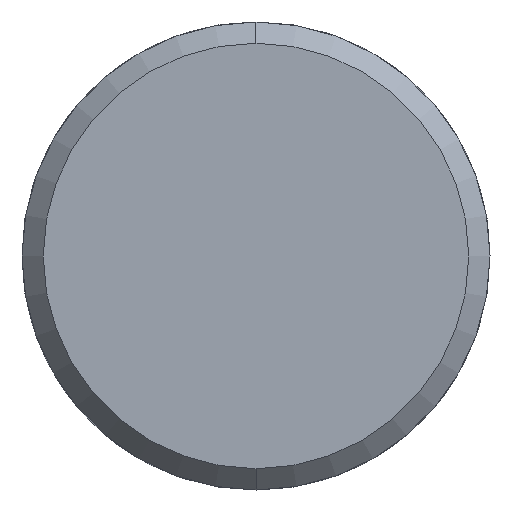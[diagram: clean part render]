
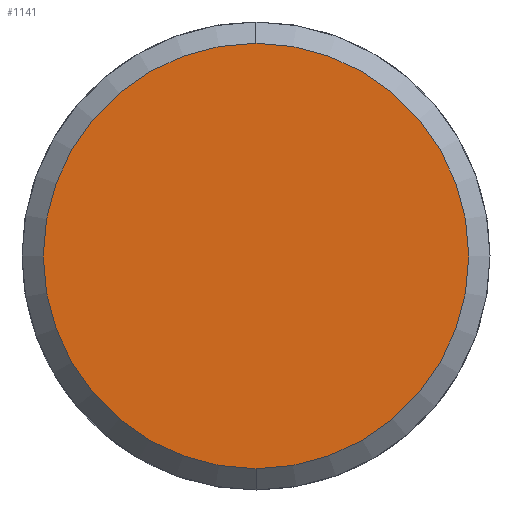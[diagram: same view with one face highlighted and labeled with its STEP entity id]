
A CAD part, left-side view. The second image highlights one B-rep face of the part: STEP entity #1141.
In plain terms, the highlighted planar face has unit normal (-1, 0, 0).
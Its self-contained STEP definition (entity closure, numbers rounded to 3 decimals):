
#1073=CARTESIAN_POINT('Vertex',(-5.,0.,-10.)) ;
#1076=CARTESIAN_POINT('Axis2P3D Location',(-5.,0.,0.)) ;
#1080=CARTESIAN_POINT('Vertex',(-5.,10.,0.)) ;
#1083=CARTESIAN_POINT('Axis2P3D Location',(-5.,0.,0.)) ;
#1087=CARTESIAN_POINT('Vertex',(-5.,0.,10.)) ;
#1109=CARTESIAN_POINT('Axis2P3D Location',(-5.,0.,0.)) ;
#1113=CARTESIAN_POINT('Vertex',(-5.,-10.,0.)) ;
#1116=CARTESIAN_POINT('Axis2P3D Location',(-5.,0.,0.)) ;
#1130=CARTESIAN_POINT('Axis2P3D Location',(-5.,0.,0.)) ;
#1077=DIRECTION('Axis2P3D Direction',(1.,0.,-0.)) ;
#1084=DIRECTION('Axis2P3D Direction',(1.,0.,-0.)) ;
#1110=DIRECTION('Axis2P3D Direction',(1.,0.,-0.)) ;
#1117=DIRECTION('Axis2P3D Direction',(1.,0.,-0.)) ;
#1131=DIRECTION('Axis2P3D Direction',(1.,0.,-0.)) ;
#1132=DIRECTION('Axis2P3D XDirection',(-0.,0.,-1.)) ;
#1078=AXIS2_PLACEMENT_3D('Circle Axis2P3D',#1076,#1077,$) ;
#1085=AXIS2_PLACEMENT_3D('Circle Axis2P3D',#1083,#1084,$) ;
#1111=AXIS2_PLACEMENT_3D('Circle Axis2P3D',#1109,#1110,$) ;
#1118=AXIS2_PLACEMENT_3D('Circle Axis2P3D',#1116,#1117,$) ;
#1133=AXIS2_PLACEMENT_3D('Plane Axis2P3D',#1130,#1131,#1132) ;
#1136=ORIENTED_EDGE('',*,*,#1082,.F.) ;
#1137=ORIENTED_EDGE('',*,*,#1120,.F.) ;
#1138=ORIENTED_EDGE('',*,*,#1115,.F.) ;
#1139=ORIENTED_EDGE('',*,*,#1089,.F.) ;
#1141=ADVANCED_FACE('351-12X22X80',(#1140),#1134,.F.) ;
#1079=CIRCLE('generated circle',#1078,10.) ;
#1086=CIRCLE('generated circle',#1085,10.) ;
#1112=CIRCLE('generated circle',#1111,10.) ;
#1119=CIRCLE('generated circle',#1118,10.) ;
#1082=EDGE_CURVE('',#1074,#1081,#1079,.T.) ;
#1089=EDGE_CURVE('',#1081,#1088,#1086,.T.) ;
#1115=EDGE_CURVE('',#1088,#1114,#1112,.T.) ;
#1120=EDGE_CURVE('',#1114,#1074,#1119,.T.) ;
#1135=EDGE_LOOP('',(#1136,#1137,#1138,#1139)) ;
#1140=FACE_OUTER_BOUND('',#1135,.T.) ;
#1134=PLANE('Plane',#1133) ;
#1074=VERTEX_POINT('',#1073) ;
#1081=VERTEX_POINT('',#1080) ;
#1088=VERTEX_POINT('',#1087) ;
#1114=VERTEX_POINT('',#1113) ;
